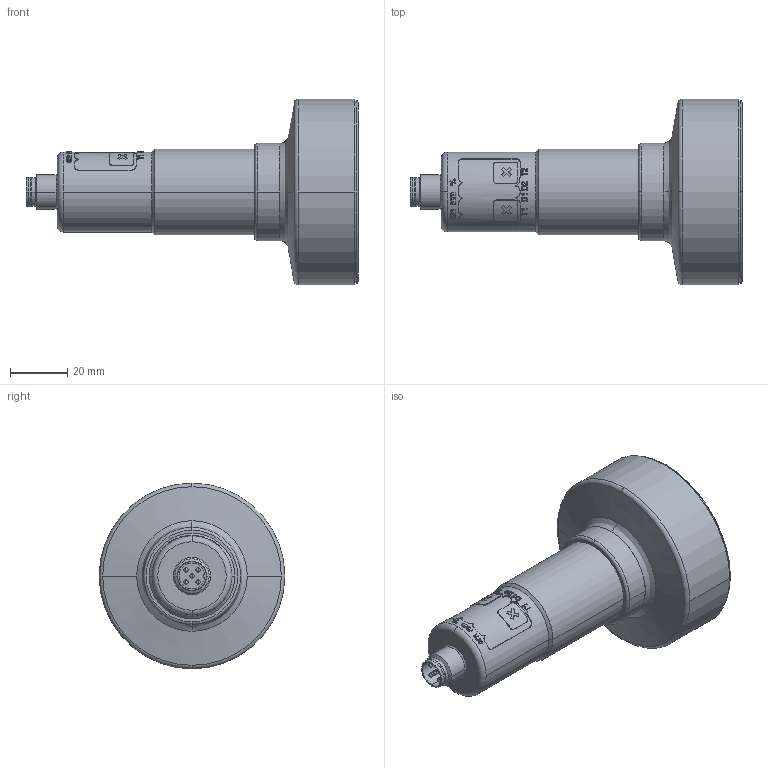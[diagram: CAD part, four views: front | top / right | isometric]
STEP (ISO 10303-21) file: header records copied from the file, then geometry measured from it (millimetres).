
FILE_DESCRIPTION((''),'2;1');
FILE_NAME('C:\Dokumente und Einstellungen\Kramp\Eigene Dateien\Microsonic Nacharb 1\STP\mic+600_XX_TC.stp','2005-08-09T11:30:27',('Kramp'),(''),'Autodesk Inventor 7','Autodesk Inventor 7','');
FILE_SCHEMA(('AUTOMOTIVE_DESIGN { 1 0 10303 214 1 1 1 1 }'));
Length unit declared in the file: millimetre
Products named in the file (1): mic+600_XX_TC
Bounding box: 116.2 x 65 x 65 mm (x, y, z)
Volume: 135357.3 mm3; surface area: 19126.8 mm2
Topology: 1 solids, 1 shells, 326 faces, 864 edges, 555 vertices
Faces by surface type: bspline 136, plane 103, cylinder 55, cone 12, torus 10, sphere 10
Entity records: 42133 total; most frequent: CARTESIAN_POINT 35040, ORIENTED_EDGE 1688, DIRECTION 1071, EDGE_CURVE 844, VERTEX_POINT 555, AXIS2_PLACEMENT_3D 374, EDGE_LOOP 361, B_SPLINE_CURVE_WITH_KNOTS 338
